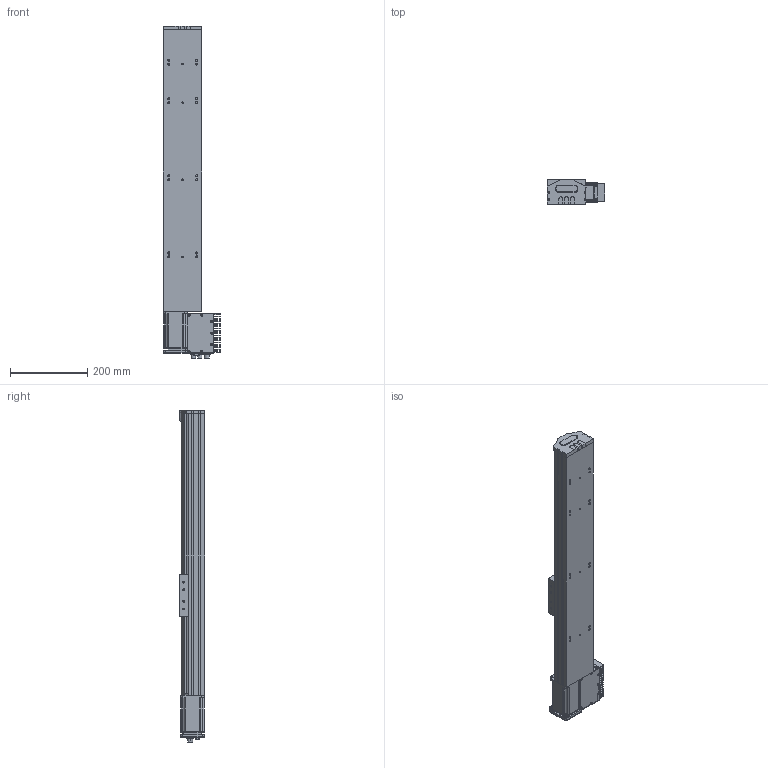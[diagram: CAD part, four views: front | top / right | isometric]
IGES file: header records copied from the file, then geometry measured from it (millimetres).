
Start section: SolidWorks IGES file using analytic representation for surfaces
Global section: file name: C:\Documents and Settings\1EDPI\Mes documents\yanize\S 10 TSH MD\S 10 TSH MD S500.IGS; native system: SolidWorks 2010; preprocessor: SolidWorks 2010; author: 1EDPI; date: 120829.114607; units: millimetre
Bounding box: 148.26 x 66.75 x 861.6 mm (x, y, z)
Surface area: 594743.6 mm2 (no closed solid volume)
Topology: 0 solids, 0 shells, 1726 faces, 23592 edges, 23564 vertices
Faces by surface type: revolution 924, bspline 802
